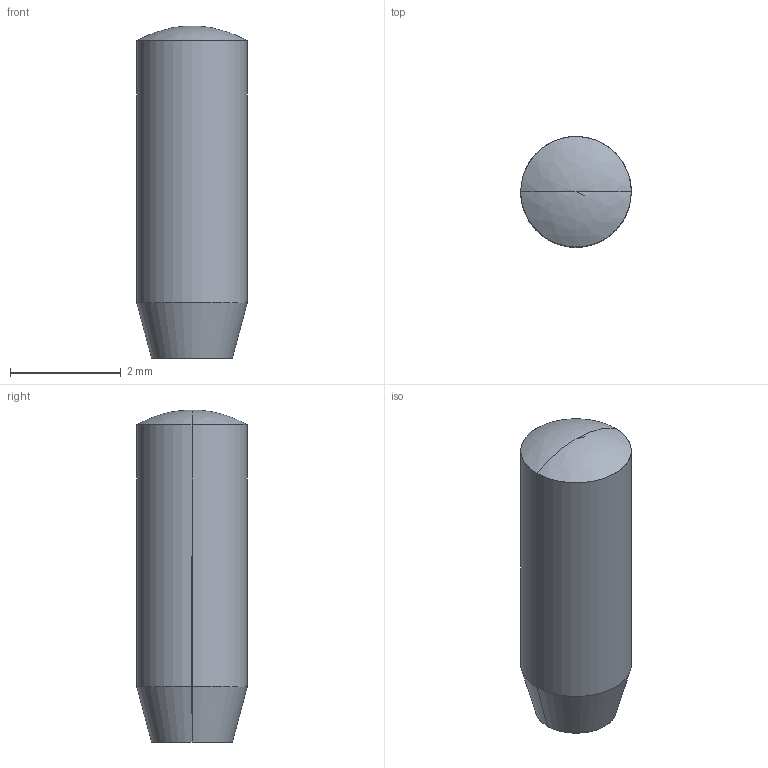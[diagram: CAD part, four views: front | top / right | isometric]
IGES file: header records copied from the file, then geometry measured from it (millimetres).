
Global section: file name: E:\UnigraphicsGraphicData\MISUMI_PRESS-PARTS\IGES\3d_ms2-6_00420_r00.igs; native system: NX V5.0; preprocessor: UGS NX IGES V5.0; author: MISUMI; date: 20110105.161512; units: millimetre
Bounding box: 2 x 2 x 6 mm (x, y, z)
Surface area: 40.4 mm2 (no closed solid volume)
Topology: 0 solids, 0 shells, 7 faces, 32 edges, 30 vertices
Faces by surface type: bspline 7
